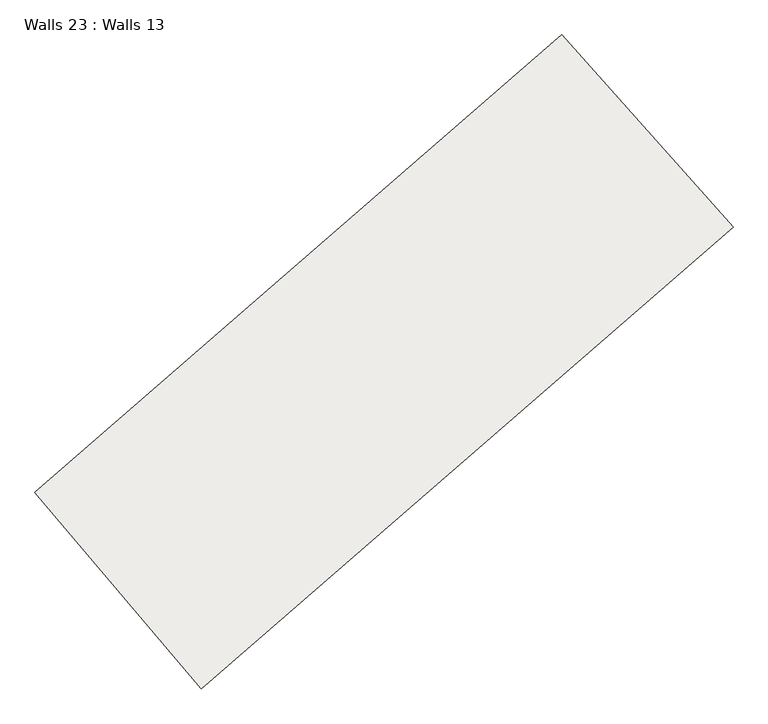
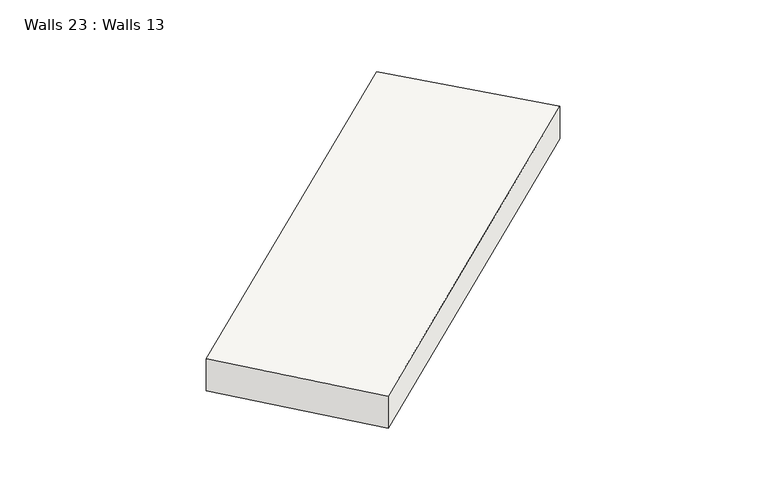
"""IFC4 building model written with IfcOpenShell, lengths in millimetres: slab geometry, Walls 23 : Walls 13."""

from ifc_helpers import new_model, si_unit, frame, origin, place, context, project, spatial, source, transform, mapped, element, save
from ifc_brep_helpers import plane_surface, spline_curve, spline_surface, advanced_brep


def walls_23_walls_13_ddf738d1(model_context):
    return source(origin(), model_context, "Body", "AdvancedBrep", [
        advanced_brep(
        [(-252887.0936207, -410742.1601571, 634550.0), (-252887.0936207, -410742.1601571, 635200.0), (-250760.0236526, -413130.2868078, 635200.0), (-250760.0236526, -413130.2868078, 634550.0), (-259439.7068549, -416435.4885343, 634480.0), (-257369.842941, -418875.6403411, 634480.0), (-257369.842941, -418875.6403411, 635130.0), (-259439.7068549, -416435.4885343, 635130.0)],
        [
            (0, 1),
            (1, 2),
            (2, 3),
            (3, 0),
            (4, 5),
            (5, 6),
            (6, 7),
            (7, 4),
            (7, 1, spline_curve(3, [(-259439.7068549, -416435.4885343, 635130.0), (-257232.68307248, -414564.202190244, 635153.333333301), (-255048.265972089, -412666.241429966, 635176.666666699), (-252887.0936207, -410742.1601571, 635200.0)], [4, 4], [0.0, 28.480707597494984])),
            (0, 4, spline_curve(3, [(-252887.0936207, -410742.1601571, 634550.0), (-255048.265972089, -412666.241429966, 634526.666666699), (-257232.68307248, -414564.202190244, 634503.333333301), (-259439.7068549, -416435.4885343, 634480.0)], [4, 4], [0.0, 28.480707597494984])),
            (6, 2, spline_curve(3, [(-257369.842941, -418875.6403411, 635130.0), (-255143.536544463, -416987.238993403, 635153.333333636), (-252940.048976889, -415071.9347409, 635176.666666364), (-250760.0236526, -413130.2868078, 635200.0)], [4, 4], [0.0, 28.60751878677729])),
            (5, 3, spline_curve(3, [(-257369.842941, -418875.6403411, 634480.0), (-255143.536544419, -416987.238993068, 634503.333333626), (-252940.048977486, -415071.934741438, 634526.666666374), (-250760.0236526, -413130.2868078, 634550.0)], [4, 4], [0.0, 28.73433029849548])),
        ],
        [
            plane_surface(frame((-251823.5586367, -411936.2234824, 634875.0), z_axis=(0.7467427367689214, 0.6651129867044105, 0.0), x_axis=(0.6651129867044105, -0.7467427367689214, 0.0))),
            plane_surface(frame((-258404.774898, -417655.5644377, 634805.0), z_axis=(-0.7625966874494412, -0.6468742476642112, 0.0), x_axis=(0.0, 0.0, 1.0))),
            spline_surface(3, 3, [[(-259439.7068549, -416435.4885343, 634480.0), (-257232.683072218, -414564.202190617, 634503.333333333), (-255048.265972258, -412666.241429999, 634526.666666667), (-252887.0936207, -410742.1601571, 634550.0)], [(-259439.7068549, -416435.4885343, 634696.666666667), (-257232.683072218, -414564.202190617, 634720.0), (-255048.265972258, -412666.241429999, 634743.333333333), (-252887.0936207, -410742.1601571, 634766.666666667)], [(-259439.7068549, -416435.4885343, 634913.333333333), (-257232.683072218, -414564.202190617, 634936.666666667), (-255048.265972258, -412666.241429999, 634960.0), (-252887.0936207, -410742.1601571, 634983.333333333)], [(-259439.7068549, -416435.4885343, 635130.0), (-257232.683072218, -414564.202190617, 635153.333333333), (-255048.265972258, -412666.241429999, 635176.666666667), (-252887.0936207, -410742.1601571, 635200.0)]], [4, 4], [4, 4], [0.0, 2.1325459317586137], [0.0, 28.480707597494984]),
            spline_surface(3, 3, [[(-259439.7068549, -416435.4885343, 635130.0), (-257232.683072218, -414564.202190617, 635153.333333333), (-255048.265972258, -412666.241429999, 635176.666666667), (-252887.0936207, -410742.1601571, 635200.0)], [(-258749.75221692, -417248.872469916, 635130.0), (-256536.300896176, -415371.881124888, 635153.333333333), (-254345.526973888, -413468.139200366, 635176.666666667), (-252178.070297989, -411538.202374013, 635200.0)], [(-258059.79757898, -418062.256405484, 635130.0), (-255839.918720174, -416179.560059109, 635153.333333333), (-253642.78797555, -414270.036970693, 635176.666666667), (-251469.046975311, -412334.244590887, 635200.0)], [(-257369.842941, -418875.6403411, 635130.0), (-255143.536544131, -416987.23899338, 635153.333333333), (-252940.04897718, -415071.93474106, 635176.666666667), (-250760.0236526, -413130.2868078, 635200.0)]], [4, 4], [4, 4], [0.0, 10.495163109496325], [0.0, 28.60751878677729]),
            spline_surface(3, 3, [[(-257369.842941, -418875.6403411, 635130.0), (-255143.536544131, -416987.23899338, 635153.333333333), (-252940.04897718, -415071.93474106, 635176.666666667), (-250760.0236526, -413130.2868078, 635200.0)], [(-257369.842941, -418875.6403411, 634913.333333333), (-255143.536544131, -416987.23899338, 634936.666666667), (-252940.04897718, -415071.93474106, 634960.0), (-250760.0236526, -413130.2868078, 634983.333333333)], [(-257369.842941, -418875.6403411, 634696.666666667), (-255143.536544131, -416987.23899338, 634720.0), (-252940.04897718, -415071.93474106, 634743.333333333), (-250760.0236526, -413130.2868078, 634766.666666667)], [(-257369.842941, -418875.6403411, 634480.0), (-255143.536544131, -416987.23899338, 634503.333333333), (-252940.04897718, -415071.93474106, 634526.666666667), (-250760.0236526, -413130.2868078, 634550.0)]], [4, 4], [4, 4], [0.0, 2.1325459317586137], [0.0, 28.73433029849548]),
            spline_surface(3, 3, [[(-257369.842941, -418875.6403411, 634480.0), (-255143.536544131, -416987.23899338, 634503.333333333), (-252940.04897718, -415071.93474106, 634526.666666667), (-250760.0236526, -413130.2868078, 634550.0)], [(-258059.79757898, -418062.256405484, 634480.0), (-255839.918720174, -416179.560059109, 634503.333333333), (-253642.78797555, -414270.036970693, 634526.666666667), (-251469.046975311, -412334.244590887, 634550.0)], [(-258749.75221692, -417248.872469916, 634480.0), (-256536.300896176, -415371.881124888, 634503.333333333), (-254345.526973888, -413468.139200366, 634526.666666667), (-252178.070297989, -411538.202374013, 634550.0)], [(-259439.7068549, -416435.4885343, 634480.0), (-257232.683072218, -414564.202190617, 634503.333333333), (-255048.265972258, -412666.241429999, 634526.666666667), (-252887.0936207, -410742.1601571, 634550.0)]], [4, 4], [4, 4], [0.0, 10.495163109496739], [0.0, 28.60751878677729]),
        ],
        [
            (0, [[1, 2, 3, 4]]),
            (1, [[5, 6, 7, 8]]),
            (2, [[-8, 9, -1, 10]]),
            (3, [[-7, 11, -2, -9]]),
            (4, [[-6, 12, -3, -11]]),
            (5, [[-5, -10, -4, -12]]),
        ],
    ),
    ])


if __name__ == "__main__":
    model = new_model("IFC4")
    model_context = context("Model", 3, world=origin())
    ifc_project = project(units=[si_unit("LENGTHUNIT", "METRE", prefix="MILLI")], contexts=[model_context])
    site = spatial("IfcSite", under=ifc_project)
    building = spatial("IfcBuilding", under=site)
    placement = place(None, origin())
    walls_23_walls_13_shape = walls_23_walls_13_ddf738d1(model_context)
    element("IfcSlab", 1, ObjectType="Walls 23 : Walls 13", at=placement, inside=building, context=model_context, shape_type="MappedRepresentation", body=[
        mapped(walls_23_walls_13_shape, transform((0.0, 0.0, 0.0), x_axis=(1.0, 0.0, 0.0), y_axis=(0.0, 1.0, 0.0), z_axis=(0.0, 0.0, 1.0))),
    ])
    save(model, "model.ifc")
